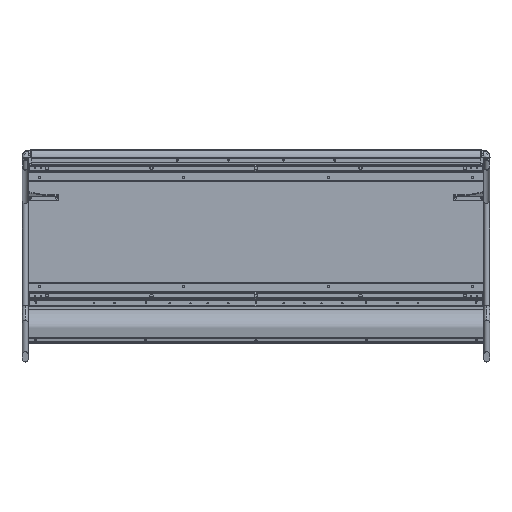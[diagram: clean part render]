
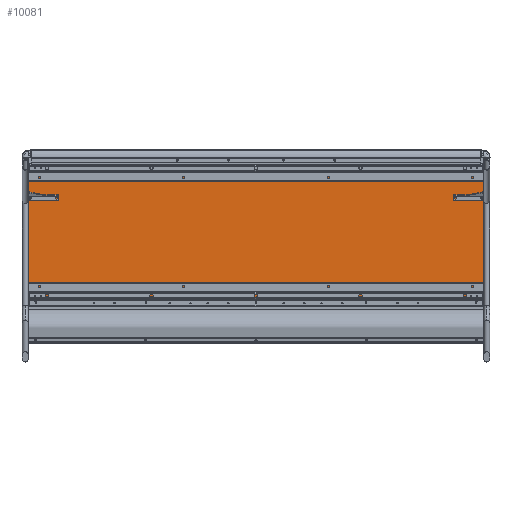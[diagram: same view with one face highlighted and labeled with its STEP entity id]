
A CAD part, front view. The second image highlights one B-rep face of the part: STEP entity #10081.
In plain terms, the highlighted planar face has unit normal (0, -1, 0).
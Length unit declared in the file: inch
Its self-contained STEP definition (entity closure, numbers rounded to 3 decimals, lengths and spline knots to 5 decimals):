
#52 = VERTEX_POINT ( 'NONE', #54920 ) ;
#649 = CIRCLE ( 'NONE', #5844, 0.29528 ) ;
#686 = EDGE_LOOP ( 'NONE', ( #43247, #28987 ) ) ;
#1023 = CIRCLE ( 'NONE', #47040, 0.29528 ) ;
#2087 = CARTESIAN_POINT ( 'NONE',  ( 0., 0., 8.39705 ) ) ;
#2741 = CIRCLE ( 'NONE', #10504, 0.29528 ) ;
#3546 = EDGE_CURVE ( 'NONE', #53661, #15017, #23643, .T. ) ;
#3647 = CARTESIAN_POINT ( 'NONE',  ( -29.98, 0., 9.775 ) ) ;
#4686 = EDGE_CURVE ( 'NONE', #25619, #28972, #9939, .T. ) ;
#4860 = DIRECTION ( 'NONE',  ( 0., 0., -1. ) ) ;
#5416 = PLANE ( 'NONE',  #30029 ) ;
#5844 = AXIS2_PLACEMENT_3D ( 'NONE', #25834, #20444, #34697 ) ;
#6740 = DIRECTION ( 'NONE',  ( 0., 0., -1. ) ) ;
#7316 = DIRECTION ( 'NONE',  ( 0., -1., 0. ) ) ;
#7732 = CARTESIAN_POINT ( 'NONE',  ( 13.74, 0., 8.10177 ) ) ;
#7766 = DIRECTION ( 'NONE',  ( 0., 0., -1. ) ) ;
#8003 = CARTESIAN_POINT ( 'NONE',  ( 29.98, 0., -9.775 ) ) ;
#8106 = CARTESIAN_POINT ( 'NONE',  ( -13.74, 0., 8.39705 ) ) ;
#8281 = EDGE_LOOP ( 'NONE', ( #14135, #56518 ) ) ;
#8452 = VERTEX_POINT ( 'NONE', #31214 ) ;
#8732 = LINE ( 'NONE', #28706, #56100 ) ;
#8839 = LINE ( 'NONE', #3647, #19591 ) ;
#9361 = DIRECTION ( 'NONE',  ( 0., -1., 0. ) ) ;
#9908 = VERTEX_POINT ( 'NONE', #27502 ) ;
#9939 = LINE ( 'NONE', #12213, #39418 ) ;
#10014 = AXIS2_PLACEMENT_3D ( 'NONE', #50870, #46055, #32402 ) ;
#10081 = ADVANCED_FACE ( 'NONE', ( #39079, #38396, #16849, #41922, #52034, #43389 ), #5416, .F. ) ;
#10504 = AXIS2_PLACEMENT_3D ( 'NONE', #46870, #42034, #37856 ) ;
#10940 = EDGE_CURVE ( 'NONE', #10986, #23933, #33982, .T. ) ;
#10986 = VERTEX_POINT ( 'NONE', #7732 ) ;
#11090 = ORIENTED_EDGE ( 'NONE', *, *, #27616, .F. ) ;
#11098 = DIRECTION ( 'NONE',  ( 0., 0., -1. ) ) ;
#12213 = CARTESIAN_POINT ( 'NONE',  ( 29.98, 0., 9.775 ) ) ;
#12221 = ORIENTED_EDGE ( 'NONE', *, *, #19742, .F. ) ;
#12513 = CARTESIAN_POINT ( 'NONE',  ( 27.48, 0., 8.39705 ) ) ;
#13739 = VERTEX_POINT ( 'NONE', #15372 ) ;
#14135 = ORIENTED_EDGE ( 'NONE', *, *, #10940, .F. ) ;
#15017 = VERTEX_POINT ( 'NONE', #55560 ) ;
#15372 = CARTESIAN_POINT ( 'NONE',  ( -13.74, 0., 8.10177 ) ) ;
#15828 = VERTEX_POINT ( 'NONE', #30073 ) ;
#16408 = AXIS2_PLACEMENT_3D ( 'NONE', #2087, #34191, #44399 ) ;
#16849 = FACE_BOUND ( 'NONE', #686, .T. ) ;
#16858 = AXIS2_PLACEMENT_3D ( 'NONE', #12513, #58053, #11098 ) ;
#17830 = ORIENTED_EDGE ( 'NONE', *, *, #3546, .F. ) ;
#18570 = DIRECTION ( 'NONE',  ( 0., 0., -1. ) ) ;
#19591 = VECTOR ( 'NONE', #22078, 39.37008 ) ;
#19742 = EDGE_CURVE ( 'NONE', #52, #8452, #32112, .T. ) ;
#20444 = DIRECTION ( 'NONE',  ( 0., -1., 0. ) ) ;
#20676 = EDGE_CURVE ( 'NONE', #44502, #49606, #55780, .T. ) ;
#21015 = EDGE_LOOP ( 'NONE', ( #30058, #44233 ) ) ;
#21545 = CIRCLE ( 'NONE', #41925, 0.29528 ) ;
#22078 = DIRECTION ( 'NONE',  ( 0., 0., 1. ) ) ;
#22338 = AXIS2_PLACEMENT_3D ( 'NONE', #8106, #7316, #30181 ) ;
#22691 = AXIS2_PLACEMENT_3D ( 'NONE', #49084, #25982, #25194 ) ;
#23097 = EDGE_CURVE ( 'NONE', #8452, #52, #28437, .T. ) ;
#23100 = DIRECTION ( 'NONE',  ( 0., -1., 0. ) ) ;
#23643 = CIRCLE ( 'NONE', #16408, 0.29528 ) ;
#23933 = VERTEX_POINT ( 'NONE', #51006 ) ;
#24163 = EDGE_LOOP ( 'NONE', ( #11090, #42102, #56671, #25668 ) ) ;
#24405 = ORIENTED_EDGE ( 'NONE', *, *, #46360, .F. ) ;
#25194 = DIRECTION ( 'NONE',  ( 0., 0., -1. ) ) ;
#25509 = EDGE_CURVE ( 'NONE', #49606, #44502, #1023, .T. ) ;
#25619 = VERTEX_POINT ( 'NONE', #28343 ) ;
#25668 = ORIENTED_EDGE ( 'NONE', *, *, #35457, .F. ) ;
#25834 = CARTESIAN_POINT ( 'NONE',  ( 0., 0., 8.39705 ) ) ;
#25982 = DIRECTION ( 'NONE',  ( 0., -1., 0. ) ) ;
#27502 = CARTESIAN_POINT ( 'NONE',  ( -13.74, 0., 8.69232 ) ) ;
#27616 = EDGE_CURVE ( 'NONE', #15828, #51546, #8839, .T. ) ;
#28343 = CARTESIAN_POINT ( 'NONE',  ( 29.98, 0., 9.775 ) ) ;
#28437 = CIRCLE ( 'NONE', #10014, 0.29528 ) ;
#28706 = CARTESIAN_POINT ( 'NONE',  ( 29.98, 0., 9.775 ) ) ;
#28972 = VERTEX_POINT ( 'NONE', #54503 ) ;
#28987 = ORIENTED_EDGE ( 'NONE', *, *, #20676, .F. ) ;
#29347 = ORIENTED_EDGE ( 'NONE', *, *, #23097, .F. ) ;
#30029 = AXIS2_PLACEMENT_3D ( 'NONE', #37137, #50589, #55588 ) ;
#30058 = ORIENTED_EDGE ( 'NONE', *, *, #38284, .F. ) ;
#30073 = CARTESIAN_POINT ( 'NONE',  ( -29.98, 0., -9.775 ) ) ;
#30105 = EDGE_CURVE ( 'NONE', #28972, #15828, #56037, .T. ) ;
#30181 = DIRECTION ( 'NONE',  ( 0., 0., -1. ) ) ;
#31214 = CARTESIAN_POINT ( 'NONE',  ( -27.48, 0., 8.10177 ) ) ;
#32112 = CIRCLE ( 'NONE', #59160, 0.29528 ) ;
#32402 = DIRECTION ( 'NONE',  ( 0., 0., -1. ) ) ;
#33982 = CIRCLE ( 'NONE', #22691, 0.29528 ) ;
#34191 = DIRECTION ( 'NONE',  ( 0., -1., 0. ) ) ;
#34697 = DIRECTION ( 'NONE',  ( 0., 0., -1. ) ) ;
#34856 = CARTESIAN_POINT ( 'NONE',  ( 27.48, 0., 8.10177 ) ) ;
#34868 = CARTESIAN_POINT ( 'NONE',  ( -29.98, 0., 9.775 ) ) ;
#35158 = EDGE_LOOP ( 'NONE', ( #24405, #17830 ) ) ;
#35457 = EDGE_CURVE ( 'NONE', #51546, #25619, #8732, .T. ) ;
#37137 = CARTESIAN_POINT ( 'NONE',  ( 0., 0., 0. ) ) ;
#37856 = DIRECTION ( 'NONE',  ( 0., 0., -1. ) ) ;
#38284 = EDGE_CURVE ( 'NONE', #13739, #9908, #21545, .T. ) ;
#38396 = FACE_BOUND ( 'NONE', #21015, .T. ) ;
#39079 = FACE_BOUND ( 'NONE', #46182, .T. ) ;
#39182 = CARTESIAN_POINT ( 'NONE',  ( 0., 0., 8.69232 ) ) ;
#39418 = VECTOR ( 'NONE', #7766, 39.37008 ) ;
#41922 = FACE_BOUND ( 'NONE', #8281, .T. ) ;
#41925 = AXIS2_PLACEMENT_3D ( 'NONE', #54726, #9361, #18570 ) ;
#42034 = DIRECTION ( 'NONE',  ( 0., -1., 0. ) ) ;
#42102 = ORIENTED_EDGE ( 'NONE', *, *, #30105, .F. ) ;
#43067 = VECTOR ( 'NONE', #49344, 39.37008 ) ;
#43247 = ORIENTED_EDGE ( 'NONE', *, *, #25509, .F. ) ;
#43389 = FACE_OUTER_BOUND ( 'NONE', #24163, .T. ) ;
#44233 = ORIENTED_EDGE ( 'NONE', *, *, #46704, .F. ) ;
#44399 = DIRECTION ( 'NONE',  ( 0., 0., -1. ) ) ;
#44481 = CIRCLE ( 'NONE', #22338, 0.29528 ) ;
#44502 = VERTEX_POINT ( 'NONE', #49809 ) ;
#46055 = DIRECTION ( 'NONE',  ( 0., -1., 0. ) ) ;
#46182 = EDGE_LOOP ( 'NONE', ( #29347, #12221 ) ) ;
#46360 = EDGE_CURVE ( 'NONE', #15017, #53661, #649, .T. ) ;
#46704 = EDGE_CURVE ( 'NONE', #9908, #13739, #44481, .T. ) ;
#46870 = CARTESIAN_POINT ( 'NONE',  ( 13.74, 0., 8.39705 ) ) ;
#47040 = AXIS2_PLACEMENT_3D ( 'NONE', #51045, #23100, #4860 ) ;
#47880 = DIRECTION ( 'NONE',  ( 0., -1., 0. ) ) ;
#48135 = EDGE_CURVE ( 'NONE', #23933, #10986, #2741, .T. ) ;
#49084 = CARTESIAN_POINT ( 'NONE',  ( 13.74, 0., 8.39705 ) ) ;
#49344 = DIRECTION ( 'NONE',  ( -1., 0., 0. ) ) ;
#49606 = VERTEX_POINT ( 'NONE', #34856 ) ;
#49809 = CARTESIAN_POINT ( 'NONE',  ( 27.48, 0., 8.69232 ) ) ;
#50589 = DIRECTION ( 'NONE',  ( 0., 1., 0. ) ) ;
#50870 = CARTESIAN_POINT ( 'NONE',  ( -27.48, 0., 8.39705 ) ) ;
#51006 = CARTESIAN_POINT ( 'NONE',  ( 13.74, 0., 8.69232 ) ) ;
#51045 = CARTESIAN_POINT ( 'NONE',  ( 27.48, 0., 8.39705 ) ) ;
#51546 = VERTEX_POINT ( 'NONE', #34868 ) ;
#52034 = FACE_BOUND ( 'NONE', #35158, .T. ) ;
#53661 = VERTEX_POINT ( 'NONE', #39182 ) ;
#54503 = CARTESIAN_POINT ( 'NONE',  ( 29.98, 0., -9.775 ) ) ;
#54726 = CARTESIAN_POINT ( 'NONE',  ( -13.74, 0., 8.39705 ) ) ;
#54920 = CARTESIAN_POINT ( 'NONE',  ( -27.48, 0., 8.69232 ) ) ;
#55560 = CARTESIAN_POINT ( 'NONE',  ( 0., 0., 8.10177 ) ) ;
#55588 = DIRECTION ( 'NONE',  ( 0., 0., 1. ) ) ;
#55780 = CIRCLE ( 'NONE', #16858, 0.29528 ) ;
#56037 = LINE ( 'NONE', #8003, #43067 ) ;
#56100 = VECTOR ( 'NONE', #56405, 39.37008 ) ;
#56405 = DIRECTION ( 'NONE',  ( 1., 0., 0. ) ) ;
#56518 = ORIENTED_EDGE ( 'NONE', *, *, #48135, .F. ) ;
#56671 = ORIENTED_EDGE ( 'NONE', *, *, #4686, .F. ) ;
#56710 = CARTESIAN_POINT ( 'NONE',  ( -27.48, 0., 8.39705 ) ) ;
#58053 = DIRECTION ( 'NONE',  ( 0., -1., 0. ) ) ;
#59160 = AXIS2_PLACEMENT_3D ( 'NONE', #56710, #47880, #6740 ) ;
